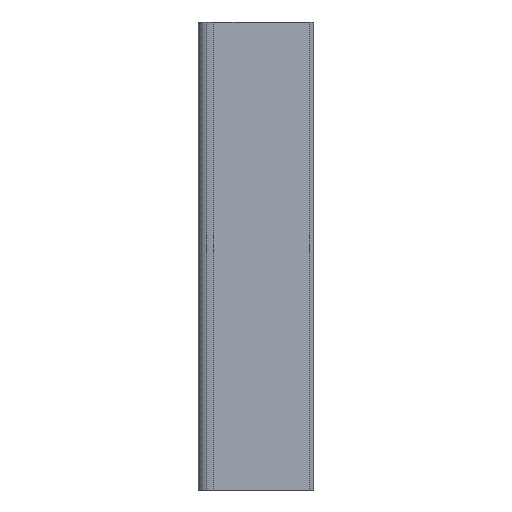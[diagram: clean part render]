
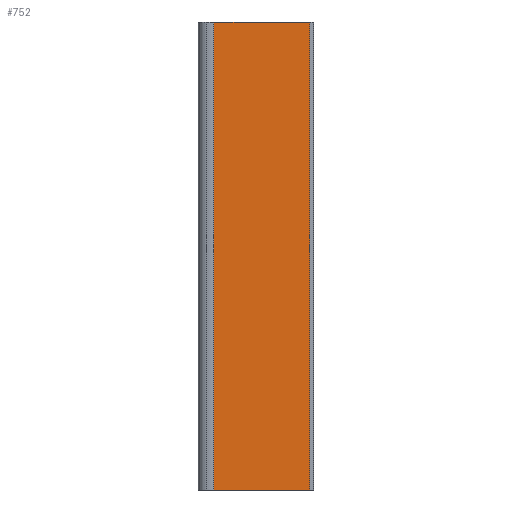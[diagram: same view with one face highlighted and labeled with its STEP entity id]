
A CAD part, left-side view. The second image highlights one B-rep face of the part: STEP entity #752.
In plain terms, the highlighted planar face has unit normal (-1, 0, 0).
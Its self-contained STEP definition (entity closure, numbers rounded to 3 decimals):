
#2 = CARTESIAN_POINT ( 'NONE',  ( -8.945, -3.6, 368. ) ) ;
#23 = CARTESIAN_POINT ( 'NONE',  ( -8.945, -78.967, 368. ) ) ;
#26 = CARTESIAN_POINT ( 'NONE',  ( -8.945, -3.6, 368. ) ) ;
#27 = PLANE ( 'NONE',  #1321 ) ;
#30 = DIRECTION ( 'NONE',  ( 1., 0., 0. ) ) ;
#31 = DIRECTION ( 'NONE',  ( 0., 1., 0. ) ) ;
#122 = VECTOR ( 'NONE', #1145, 1000. ) ;
#137 = LINE ( 'NONE', #1139, #122 ) ;
#203 = VECTOR ( 'NONE', #1053, 1000. ) ;
#214 = LINE ( 'NONE', #1050, #203 ) ;
#338 = ORIENTED_EDGE ( 'NONE', *, *, #1299, .T. ) ;
#339 = ORIENTED_EDGE ( 'NONE', *, *, #1231, .F. ) ;
#340 = ORIENTED_EDGE ( 'NONE', *, *, #1186, .F. ) ;
#341 = ORIENTED_EDGE ( 'NONE', *, *, #1206, .T. ) ;
#350 = EDGE_LOOP ( 'NONE', ( #338, #339, #340, #341 ) ) ;
#487 = VERTEX_POINT ( 'NONE', #546 ) ;
#499 = VERTEX_POINT ( 'NONE', #558 ) ;
#502 = VERTEX_POINT ( 'NONE', #2 ) ;
#523 = VERTEX_POINT ( 'NONE', #23 ) ;
#546 = CARTESIAN_POINT ( 'NONE',  ( -8.945, -78.967, 0. ) ) ;
#558 = CARTESIAN_POINT ( 'NONE',  ( -8.945, -3.6, 0. ) ) ;
#664 = CARTESIAN_POINT ( 'NONE',  ( -8.945, -3.6, 368. ) ) ;
#665 = DIRECTION ( 'NONE',  ( 0., 0., -1. ) ) ;
#752 = ADVANCED_FACE ( 'NONE', ( #995 ), #27, .F. ) ;
#844 = CARTESIAN_POINT ( 'NONE',  ( -8.945, -3.6, 368. ) ) ;
#849 = DIRECTION ( 'NONE',  ( 0., -1., 0. ) ) ;
#888 = VECTOR ( 'NONE', #665, 1000. ) ;
#889 = LINE ( 'NONE', #664, #888 ) ;
#917 = VECTOR ( 'NONE', #849, 1000. ) ;
#919 = LINE ( 'NONE', #844, #917 ) ;
#995 = FACE_OUTER_BOUND ( 'NONE', #350, .T. ) ;
#1050 = CARTESIAN_POINT ( 'NONE',  ( -8.945, -78.967, 368. ) ) ;
#1053 = DIRECTION ( 'NONE',  ( 0., 0., -1. ) ) ;
#1139 = CARTESIAN_POINT ( 'NONE',  ( -8.945, -3.6, 0. ) ) ;
#1145 = DIRECTION ( 'NONE',  ( 0., -1., 0. ) ) ;
#1186 = EDGE_CURVE ( 'NONE', #502, #523, #919, .T. ) ;
#1206 = EDGE_CURVE ( 'NONE', #502, #499, #889, .T. ) ;
#1231 = EDGE_CURVE ( 'NONE', #523, #487, #214, .T. ) ;
#1299 = EDGE_CURVE ( 'NONE', #499, #487, #137, .T. ) ;
#1321 = AXIS2_PLACEMENT_3D ( 'NONE', #26, #30, #31 ) ;
